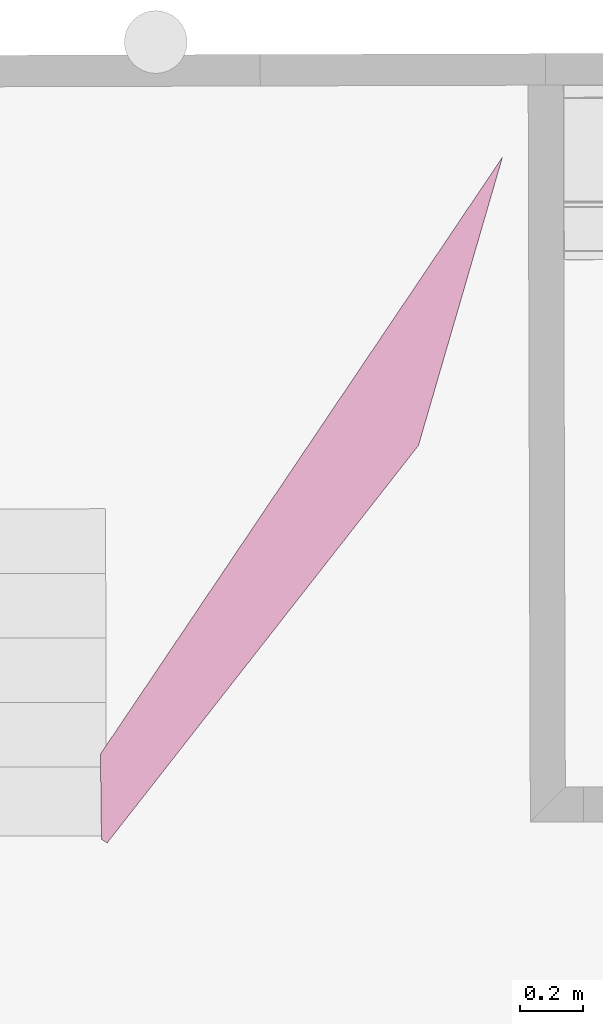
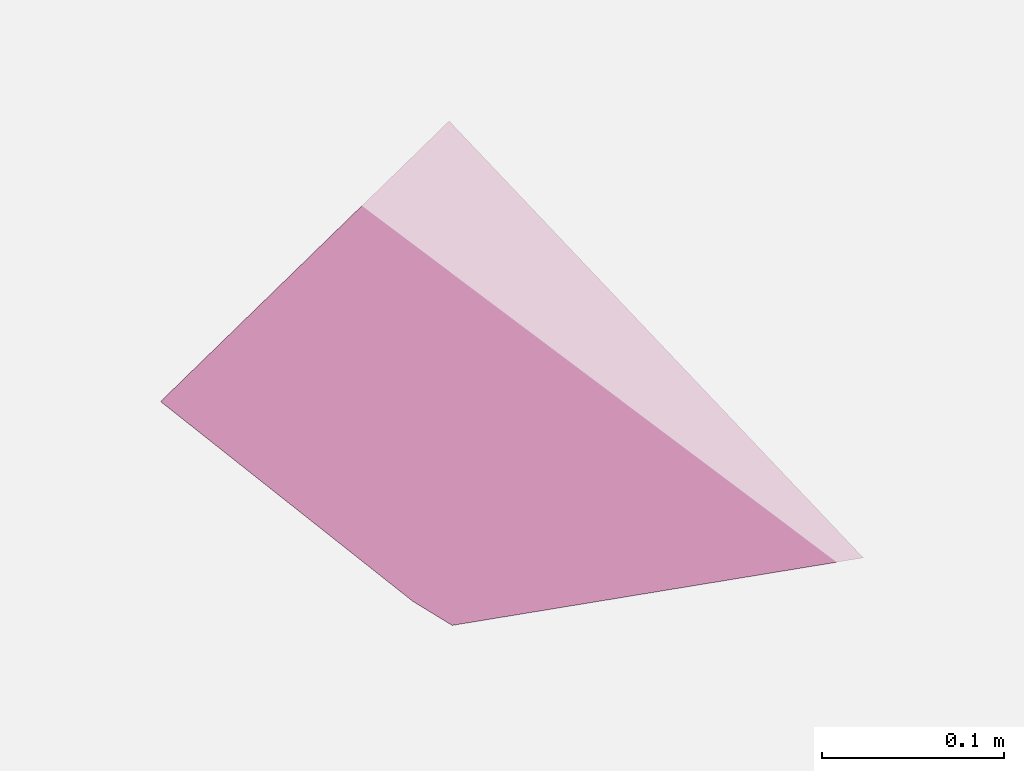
# One storey, part 11 of 15: 1 furniture element.
"""IFC4 building model written with IfcOpenShell, lengths in metres."""

from ifc_helpers import new_model, si_unit, direction, frame, origin_with_axes, place, context, project, spatial, polygons, shape, element, save


model = new_model("IFC4")

# Units and contexts
model_context = context("Model", 3, precision=1e-05, world=origin_with_axes(), true_north=direction((-0.077, 0.997, 0.0)))
ifc_project = project(units=[si_unit("AREAUNIT", "SQUARE_METRE"), si_unit("LENGTHUNIT", "METRE")], contexts=[model_context])

# Site, building, storey, space
site_placement = place(None, origin_with_axes())
site = spatial("IfcSite", under=ifc_project, at=site_placement, Name="Site", CompositionType="ELEMENT")
building_placement = place(site_placement, origin_with_axes())
building = spatial("IfcBuilding", under=site, at=building_placement, Name="Building", CompositionType="ELEMENT")
storey_placement = place(building_placement, frame((0.0, 0.0, 5.71135139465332), z_axis=(0.0, 0.0, 1.0), x_axis=(1.0, 0.0, 0.0)))
storey = spatial("IfcBuildingStorey", under=building, at=storey_placement, Name="Story 2", CompositionType="ELEMENT", Elevation=5.71135139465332)
space_placement = place(storey_placement, frame((1.57239541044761, -0.970197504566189, 0.0), z_axis=(0.0, 0.0, 1.0), x_axis=(1.0, 0.0, 0.0)))
space = spatial("IfcSpace", under=storey, at=space_placement, Name="019", CompositionType="ELEMENT")

# Furniture
furniture_placement = place(space_placement, frame((0.96560201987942, 0.405953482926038, 0.996964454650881), z_axis=(-0.527755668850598, 0.750113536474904, 0.398501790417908), x_axis=(-0.513480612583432, -0.655475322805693, 0.553795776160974)))
element("IfcFurniture", 1, at=furniture_placement, inside=space, Name="test 6", PredefinedType="USERDEFINED", shapes=[
    shape(model_context, None, "Tessellation", [polygons([(-4.44089209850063e-16, -8.88178419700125e-16, 0.0), (0.0107244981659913, -8.88178419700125e-16, 0.02433355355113), (-0.181781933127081, -8.88178419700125e-16, 0.217782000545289), (-2.86530715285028, 0.0, 0.404719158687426), (-1.92863984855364, 8.88178419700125e-16, 2.23798757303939e-12)], [[[4, 5, 3]], [[1, 2, 3]], [[1, 3, 5]]])]),
])

save(model, "model.ifc")
